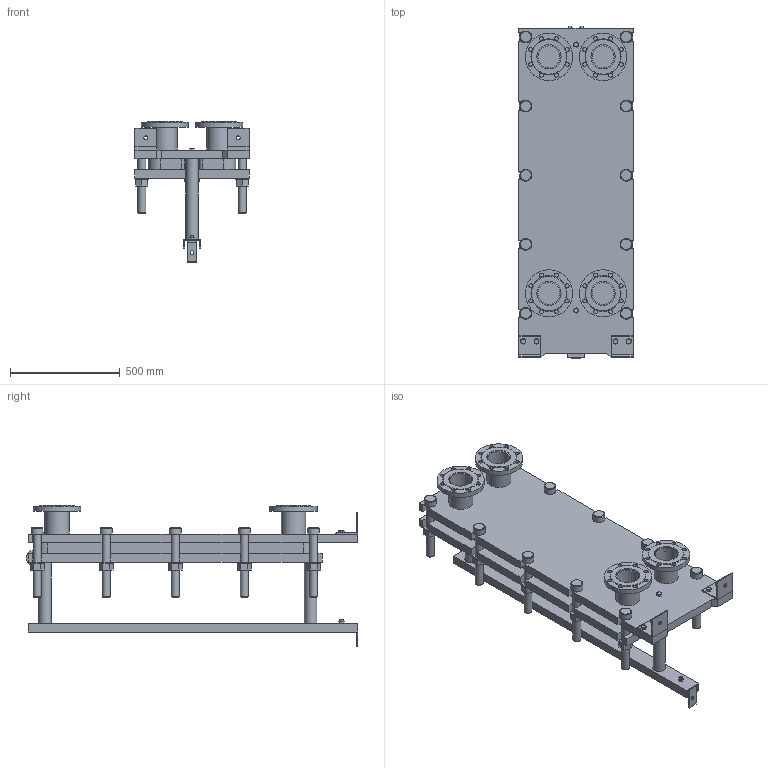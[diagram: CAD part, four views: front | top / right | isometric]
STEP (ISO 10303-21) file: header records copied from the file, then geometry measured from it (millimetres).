
FILE_DESCRIPTION(/* description */ (''),/* implementation_level */ '2;1');
FILE_NAME(/* name */ 'C:\Users\zhuro\Desktop\ENCO\TO\ЭН-04\ЭН-0,5-04-14-1.stp',/* time_stamp */ '2022-06-06T10:45:28+03:00',/* author */ ('zhuro'),/* organization */ (''),/* preprocessor_version */ 'ST-DEVELOPER v18.1',/* originating_system */ 'Autodesk Inventor 2022',/* authorisation */ '');
FILE_SCHEMA (('AUTOMOTIVE_DESIGN { 1 0 10303 214 3 1 1 }'));
Length unit declared in the file: millimetre
Products named in the file (1): ЭН-0,5-04-14-1
Bounding box: 520 x 1510 x 642 mm (x, y, z)
Volume: 90714549.9 mm3; surface area: 6464113.8 mm2
Topology: 45 solids, 45 shells, 668 faces, 1611 edges, 1048 vertices
Faces by surface type: plane 457, cylinder 166, cone 39, torus 6
Full cylindrical faces by diameter (mm): 8 x4, 10 x2, 16 x8, 18 x35, 36 x25, 40 x2, 42 x1, 45 x4, 54 x10, 57 x2, 60 x10, 68 x2, 100 x4, 110 x8, 215 x4
Entity records: 23607 total; most frequent: CARTESIAN_POINT 7348, DIRECTION 3371, ORIENTED_EDGE 3142, EDGE_CURVE 1571, AXIS2_PLACEMENT_3D 1199, VERTEX_POINT 1044, LINE 973, VECTOR 973
